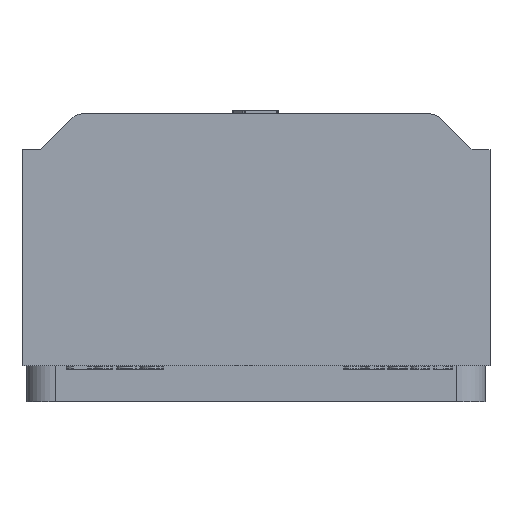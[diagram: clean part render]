
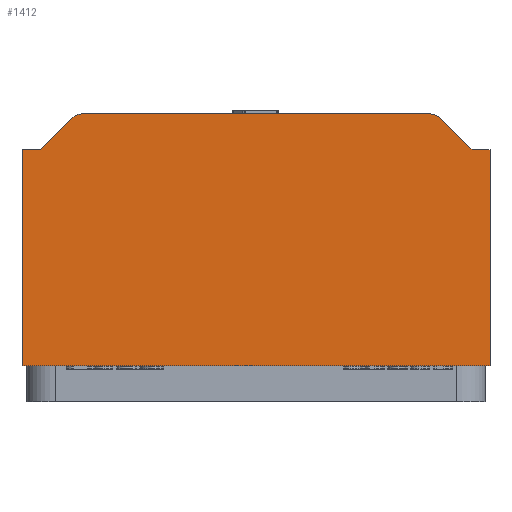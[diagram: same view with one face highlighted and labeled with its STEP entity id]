
A CAD part, front view. The second image highlights one B-rep face of the part: STEP entity #1412.
In plain terms, the highlighted planar face has unit normal (0, -1, 0).
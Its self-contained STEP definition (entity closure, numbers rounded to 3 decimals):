
#1412=ADVANCED_FACE('',(#21158),#21160,.F.);
#21158=FACE_BOUND('',#21159,.T.);
#21159=EDGE_LOOP('',(#37812,#37813,#37814,#37815,#37816,#37817,#37818,#37819,#37820,
#37821));
#21160=PLANE('',#21161);
#21161=AXIS2_PLACEMENT_3D('',#21162,#21163,#21164);
#21162=CARTESIAN_POINT('',(0.,0.,0.));
#21163=DIRECTION('',(0.,1.,0.));
#21164=DIRECTION('',(-1.,0.,0.));
#37812=ORIENTED_EDGE('',*,*,#50112,.F.);
#37813=ORIENTED_EDGE('',*,*,#50113,.F.);
#37814=ORIENTED_EDGE('',*,*,#50114,.F.);
#37815=ORIENTED_EDGE('',*,*,#50115,.F.);
#37816=ORIENTED_EDGE('',*,*,#50116,.F.);
#37817=ORIENTED_EDGE('',*,*,#48972,.F.);
#37818=ORIENTED_EDGE('',*,*,#49120,.F.);
#37819=ORIENTED_EDGE('',*,*,#49037,.F.);
#37820=ORIENTED_EDGE('',*,*,#50117,.F.);
#37821=ORIENTED_EDGE('',*,*,#50118,.F.);
#48972=EDGE_CURVE('',#55603,#55605,#55606,.T.);
#49037=EDGE_CURVE('',#55725,#55727,#55728,.T.);
#49120=EDGE_CURVE('',#55727,#55603,#55871,.T.);
#50112=EDGE_CURVE('',#57852,#57853,#57854,.T.);
#50113=EDGE_CURVE('',#57855,#57852,#57856,.T.);
#50114=EDGE_CURVE('',#57857,#57855,#57858,.T.);
#50115=EDGE_CURVE('',#57859,#57857,#57860,.T.);
#50116=EDGE_CURVE('',#55605,#57859,#57861,.T.);
#50117=EDGE_CURVE('',#57862,#55725,#57863,.T.);
#50118=EDGE_CURVE('',#57853,#57862,#57864,.T.);
#55603=VERTEX_POINT('',#67461);
#55605=VERTEX_POINT('',#67465);
#55606=LINE('',#67466,#67467);
#55725=VERTEX_POINT('',#67716);
#55727=VERTEX_POINT('',#67720);
#55728=LINE('',#67721,#67722);
#55871=LINE('',#68054,#68055);
#57852=VERTEX_POINT('',#72452);
#57853=VERTEX_POINT('',#72453);
#57854=CIRCLE('',#72454,1.);
#57855=VERTEX_POINT('',#72458);
#57856=LINE('',#72459,#72460);
#57857=VERTEX_POINT('',#72462);
#57858=CIRCLE('',#72463,1.);
#57859=VERTEX_POINT('',#72467);
#57860=LINE('',#72468,#72469);
#57861=LINE('',#72471,#72472);
#57862=VERTEX_POINT('',#72474);
#57863=LINE('',#72475,#72476);
#57864=LINE('',#72478,#72479);
#67461=CARTESIAN_POINT('',(-13.,0.,0.));
#67465=CARTESIAN_POINT('',(-13.,0.,12.));
#67466=CARTESIAN_POINT('',(-13.,0.,0.));
#67467=VECTOR('',#67468,1.);
#67468=DIRECTION('',(0.,0.,1.));
#67716=CARTESIAN_POINT('',(13.,0.,12.));
#67720=CARTESIAN_POINT('',(13.,0.,0.));
#67721=CARTESIAN_POINT('',(13.,0.,12.));
#67722=VECTOR('',#67723,1.);
#67723=DIRECTION('',(0.,0.,-1.));
#68054=CARTESIAN_POINT('',(13.,0.,0.));
#68055=VECTOR('',#68056,1.);
#68056=DIRECTION('',(-1.,0.,0.));
#72452=CARTESIAN_POINT('',(9.586,0.,14.));
#72453=CARTESIAN_POINT('',(10.293,0.,13.707));
#72454=AXIS2_PLACEMENT_3D('',#72455,#72456,#72457);
#72455=CARTESIAN_POINT('',(9.586,0.,13.));
#72456=DIRECTION('',(0.,1.,0.));
#72457=DIRECTION('',(0.,0.,1.));
#72458=CARTESIAN_POINT('',(-9.586,0.,14.));
#72459=CARTESIAN_POINT('',(-9.586,0.,14.));
#72460=VECTOR('',#72461,1.);
#72461=DIRECTION('',(1.,0.,0.));
#72462=CARTESIAN_POINT('',(-10.293,0.,13.707));
#72463=AXIS2_PLACEMENT_3D('',#72464,#72465,#72466);
#72464=CARTESIAN_POINT('',(-9.586,0.,13.));
#72465=DIRECTION('',(0.,1.,0.));
#72466=DIRECTION('',(-0.707,0.,0.707));
#72467=CARTESIAN_POINT('',(-12.,0.,12.));
#72468=CARTESIAN_POINT('',(-12.,0.,12.));
#72469=VECTOR('',#72470,1.);
#72470=DIRECTION('',(0.707,0.,0.707));
#72471=CARTESIAN_POINT('',(-13.,0.,12.));
#72472=VECTOR('',#72473,1.);
#72473=DIRECTION('',(1.,0.,0.));
#72474=CARTESIAN_POINT('',(12.,0.,12.));
#72475=CARTESIAN_POINT('',(12.,0.,12.));
#72476=VECTOR('',#72477,1.);
#72477=DIRECTION('',(1.,0.,0.));
#72478=CARTESIAN_POINT('',(10.293,0.,13.707));
#72479=VECTOR('',#72480,1.);
#72480=DIRECTION('',(0.707,0.,-0.707));
